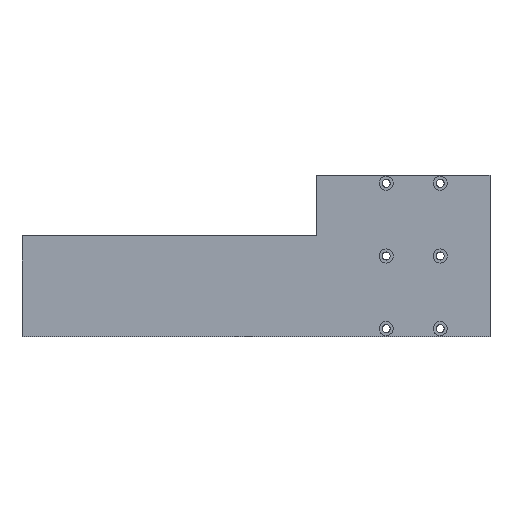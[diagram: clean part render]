
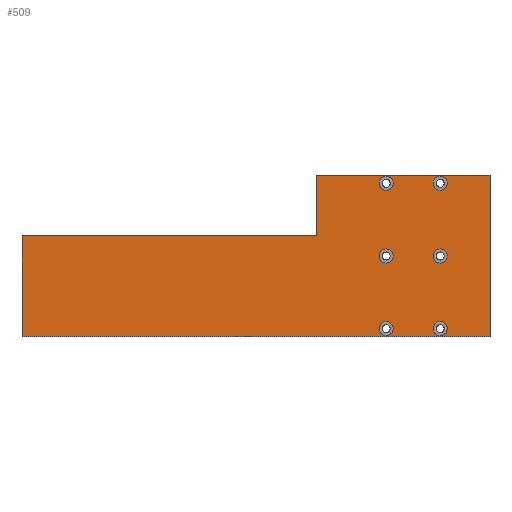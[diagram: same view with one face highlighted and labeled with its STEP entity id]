
A CAD part, top view. The second image highlights one B-rep face of the part: STEP entity #509.
In plain terms, the highlighted planar face has unit normal (0, 0, 1).
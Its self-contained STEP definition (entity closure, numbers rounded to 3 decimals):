
#18=LINE('',#836,#36);
#21=LINE('',#842,#39);
#22=LINE('',#845,#40);
#27=LINE('',#854,#45);
#29=LINE('',#877,#47);
#32=LINE('',#881,#50);
#36=VECTOR('',#696,10.);
#39=VECTOR('',#701,10.);
#40=VECTOR('',#704,10.);
#45=VECTOR('',#711,10.);
#47=VECTOR('',#739,10.);
#50=VECTOR('',#744,10.);
#79=FACE_BOUND('',#207,.T.);
#80=FACE_BOUND('',#208,.T.);
#81=FACE_BOUND('',#209,.T.);
#82=FACE_BOUND('',#210,.T.);
#83=FACE_BOUND('',#211,.T.);
#84=FACE_BOUND('',#212,.T.);
#142=FACE_OUTER_BOUND('',#206,.T.);
#206=EDGE_LOOP('',(#432,#433,#434,#435,#436,#437));
#207=EDGE_LOOP('',(#438));
#208=EDGE_LOOP('',(#439));
#209=EDGE_LOOP('',(#440));
#210=EDGE_LOOP('',(#441));
#211=EDGE_LOOP('',(#442));
#212=EDGE_LOOP('',(#443));
#222=CIRCLE('',#524,1.75);
#225=CIRCLE('',#529,1.75);
#228=CIRCLE('',#534,1.75);
#231=CIRCLE('',#539,1.75);
#234=CIRCLE('',#544,1.75);
#237=CIRCLE('',#549,1.75);
#256=VERTEX_POINT('',#757);
#259=VERTEX_POINT('',#765);
#262=VERTEX_POINT('',#773);
#265=VERTEX_POINT('',#781);
#268=VERTEX_POINT('',#789);
#271=VERTEX_POINT('',#797);
#283=VERTEX_POINT('',#830);
#285=VERTEX_POINT('',#834);
#287=VERTEX_POINT('',#840);
#288=VERTEX_POINT('',#844);
#291=VERTEX_POINT('',#852);
#299=VERTEX_POINT('',#876);
#302=EDGE_CURVE('',#256,#256,#222,.T.);
#305=EDGE_CURVE('',#259,#259,#225,.T.);
#308=EDGE_CURVE('',#262,#262,#228,.T.);
#311=EDGE_CURVE('',#265,#265,#231,.T.);
#314=EDGE_CURVE('',#268,#268,#234,.T.);
#317=EDGE_CURVE('',#271,#271,#237,.T.);
#331=EDGE_CURVE('',#283,#285,#18,.T.);
#334=EDGE_CURVE('',#285,#287,#21,.T.);
#335=EDGE_CURVE('',#288,#283,#22,.T.);
#340=EDGE_CURVE('',#287,#291,#27,.T.);
#348=EDGE_CURVE('',#299,#288,#29,.T.);
#351=EDGE_CURVE('',#291,#299,#32,.T.);
#432=ORIENTED_EDGE('',*,*,#334,.T.);
#433=ORIENTED_EDGE('',*,*,#340,.T.);
#434=ORIENTED_EDGE('',*,*,#351,.T.);
#435=ORIENTED_EDGE('',*,*,#348,.T.);
#436=ORIENTED_EDGE('',*,*,#335,.T.);
#437=ORIENTED_EDGE('',*,*,#331,.T.);
#438=ORIENTED_EDGE('',*,*,#302,.T.);
#439=ORIENTED_EDGE('',*,*,#305,.T.);
#440=ORIENTED_EDGE('',*,*,#308,.T.);
#441=ORIENTED_EDGE('',*,*,#311,.T.);
#442=ORIENTED_EDGE('',*,*,#314,.T.);
#443=ORIENTED_EDGE('',*,*,#317,.T.);
#473=PLANE('',#587);
#509=ADVANCED_FACE('',(#142,#79,#80,#81,#82,#83,#84),#473,.T.);
#524=AXIS2_PLACEMENT_3D('',#758,#601,#602);
#529=AXIS2_PLACEMENT_3D('',#766,#611,#612);
#534=AXIS2_PLACEMENT_3D('',#774,#621,#622);
#539=AXIS2_PLACEMENT_3D('',#782,#631,#632);
#544=AXIS2_PLACEMENT_3D('',#790,#641,#642);
#549=AXIS2_PLACEMENT_3D('',#798,#651,#652);
#587=AXIS2_PLACEMENT_3D('',#882,#745,#746);
#601=DIRECTION('center_axis',(0.,0.,-1.));
#602=DIRECTION('ref_axis',(1.,0.,0.));
#611=DIRECTION('center_axis',(0.,0.,-1.));
#612=DIRECTION('ref_axis',(1.,0.,0.));
#621=DIRECTION('center_axis',(0.,0.,-1.));
#622=DIRECTION('ref_axis',(1.,0.,0.));
#631=DIRECTION('center_axis',(0.,0.,-1.));
#632=DIRECTION('ref_axis',(1.,0.,0.));
#641=DIRECTION('center_axis',(0.,0.,-1.));
#642=DIRECTION('ref_axis',(1.,0.,0.));
#651=DIRECTION('center_axis',(0.,0.,-1.));
#652=DIRECTION('ref_axis',(1.,0.,0.));
#696=DIRECTION('',(0.,-1.,0.));
#701=DIRECTION('',(-1.,0.,0.));
#704=DIRECTION('',(-1.,0.,0.));
#711=DIRECTION('',(0.,-1.,0.));
#739=DIRECTION('',(0.,1.,0.));
#744=DIRECTION('',(1.,0.,0.));
#745=DIRECTION('center_axis',(0.,0.,1.));
#746=DIRECTION('ref_axis',(1.,0.,0.));
#757=CARTESIAN_POINT('',(-4.95,-18.,10.));
#758=CARTESIAN_POINT('Origin',(-6.7,-18.,10.));
#765=CARTESIAN_POINT('',(8.45,-18.,10.));
#766=CARTESIAN_POINT('Origin',(6.7,-18.,10.));
#773=CARTESIAN_POINT('',(-4.95,0.,10.));
#774=CARTESIAN_POINT('Origin',(-6.7,0.,10.));
#781=CARTESIAN_POINT('',(8.45,0.,10.));
#782=CARTESIAN_POINT('Origin',(6.7,0.,10.));
#789=CARTESIAN_POINT('',(8.45,18.,10.));
#790=CARTESIAN_POINT('Origin',(6.7,18.,10.));
#797=CARTESIAN_POINT('',(-4.95,18.,10.));
#798=CARTESIAN_POINT('Origin',(-6.7,18.,10.));
#830=CARTESIAN_POINT('',(-23.849,20.,10.));
#834=CARTESIAN_POINT('',(-23.849,5.,10.));
#836=CARTESIAN_POINT('',(-23.849,10.,10.));
#840=CARTESIAN_POINT('',(-96.957,5.,10.));
#842=CARTESIAN_POINT('',(-23.314,5.,10.));
#844=CARTESIAN_POINT('',(19.05,20.,10.));
#845=CARTESIAN_POINT('',(19.05,20.,10.));
#852=CARTESIAN_POINT('',(-96.957,-20.,10.));
#854=CARTESIAN_POINT('',(-96.957,20.,10.));
#876=CARTESIAN_POINT('',(19.05,-20.,10.));
#877=CARTESIAN_POINT('',(19.05,-20.,10.));
#881=CARTESIAN_POINT('',(-96.957,-20.,10.));
#882=CARTESIAN_POINT('Origin',(13.775,0.,10.));
